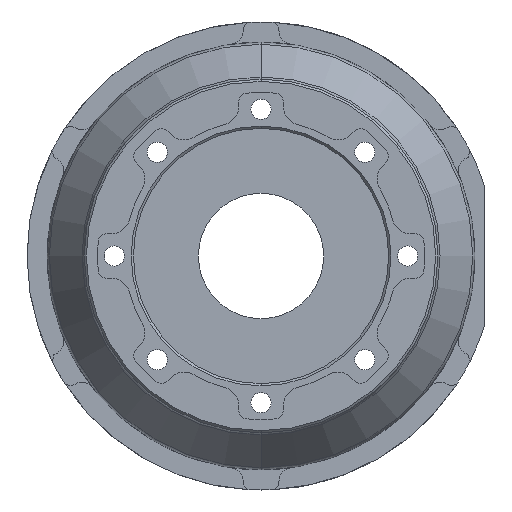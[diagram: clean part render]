
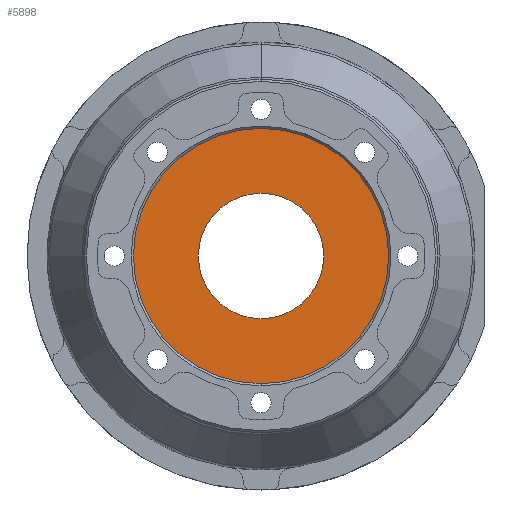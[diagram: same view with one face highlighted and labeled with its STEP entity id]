
A CAD part, left-side view. The second image highlights one B-rep face of the part: STEP entity #5898.
In plain terms, the highlighted planar face has unit normal (-1, 0, 0).
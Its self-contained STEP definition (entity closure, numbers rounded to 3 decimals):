
#57 = PLANE ( 'NONE',  #4317 ) ;
#208 = EDGE_CURVE ( 'NONE', #1391, #7096, #6634, .T. ) ;
#859 = DIRECTION ( 'NONE',  ( 0., 0., -1. ) ) ;
#972 = CARTESIAN_POINT ( 'NONE',  ( 5., 0., 0. ) ) ;
#1080 = CARTESIAN_POINT ( 'NONE',  ( 5., 0., 14. ) ) ;
#1173 = CARTESIAN_POINT ( 'NONE',  ( 5., 0., -28.5 ) ) ;
#1197 = VERTEX_POINT ( 'NONE', #7363 ) ;
#1332 = EDGE_LOOP ( 'NONE', ( #4944, #3867 ) ) ;
#1391 = VERTEX_POINT ( 'NONE', #1080 ) ;
#1560 = DIRECTION ( 'NONE',  ( 0., 0., -1. ) ) ;
#1829 = DIRECTION ( 'NONE',  ( 0., 0., 1. ) ) ;
#2132 = FACE_OUTER_BOUND ( 'NONE', #6076, .T. ) ;
#2543 = DIRECTION ( 'NONE',  ( 1., 0., 0. ) ) ;
#2607 = CARTESIAN_POINT ( 'NONE',  ( 5., 0., 0. ) ) ;
#2795 = CARTESIAN_POINT ( 'NONE',  ( 5., 0., 0. ) ) ;
#3014 = EDGE_CURVE ( 'NONE', #3856, #1197, #5606, .T. ) ;
#3360 = DIRECTION ( 'NONE',  ( 0., 0., -1. ) ) ;
#3657 = ORIENTED_EDGE ( 'NONE', *, *, #3014, .F. ) ;
#3856 = VERTEX_POINT ( 'NONE', #1173 ) ;
#3867 = ORIENTED_EDGE ( 'NONE', *, *, #208, .T. ) ;
#4155 = AXIS2_PLACEMENT_3D ( 'NONE', #972, #4979, #1560 ) ;
#4317 = AXIS2_PLACEMENT_3D ( 'NONE', #6943, #5238, #1829 ) ;
#4615 = AXIS2_PLACEMENT_3D ( 'NONE', #2607, #6596, #859 ) ;
#4627 = CIRCLE ( 'NONE', #6470, 28.5 ) ;
#4944 = ORIENTED_EDGE ( 'NONE', *, *, #5591, .T. ) ;
#4979 = DIRECTION ( 'NONE',  ( 1., 0., 0. ) ) ;
#5238 = DIRECTION ( 'NONE',  ( -1., 0., 0. ) ) ;
#5591 = EDGE_CURVE ( 'NONE', #7096, #1391, #7145, .T. ) ;
#5606 = CIRCLE ( 'NONE', #4155, 28.5 ) ;
#5659 = ORIENTED_EDGE ( 'NONE', *, *, #6908, .F. ) ;
#5898 = ADVANCED_FACE ( 'NONE', ( #6698, #2132 ), #57, .T. ) ;
#5969 = CARTESIAN_POINT ( 'NONE',  ( 5., 0., 0. ) ) ;
#6076 = EDGE_LOOP ( 'NONE', ( #3657, #5659 ) ) ;
#6470 = AXIS2_PLACEMENT_3D ( 'NONE', #2795, #6802, #3360 ) ;
#6551 = DIRECTION ( 'NONE',  ( 0., 0., -1. ) ) ;
#6596 = DIRECTION ( 'NONE',  ( 1., 0., 0. ) ) ;
#6634 = CIRCLE ( 'NONE', #4615, 14. ) ;
#6698 = FACE_BOUND ( 'NONE', #1332, .T. ) ;
#6802 = DIRECTION ( 'NONE',  ( 1., 0., 0. ) ) ;
#6908 = EDGE_CURVE ( 'NONE', #1197, #3856, #4627, .T. ) ;
#6922 = AXIS2_PLACEMENT_3D ( 'NONE', #5969, #2543, #6551 ) ;
#6943 = CARTESIAN_POINT ( 'NONE',  ( 5., 14., 0. ) ) ;
#7096 = VERTEX_POINT ( 'NONE', #7121 ) ;
#7121 = CARTESIAN_POINT ( 'NONE',  ( 5., 0., -14. ) ) ;
#7145 = CIRCLE ( 'NONE', #6922, 14. ) ;
#7363 = CARTESIAN_POINT ( 'NONE',  ( 5., 0., 28.5 ) ) ;
